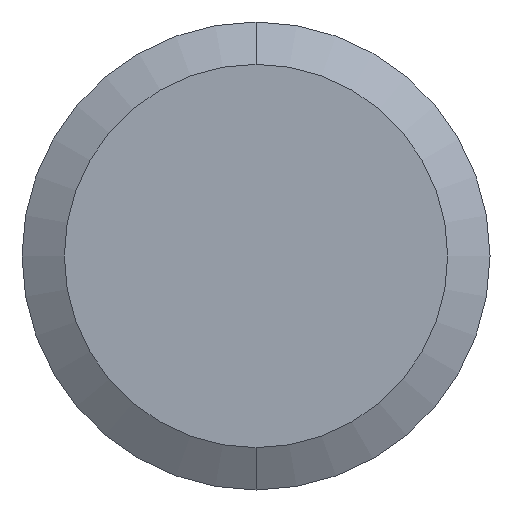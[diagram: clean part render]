
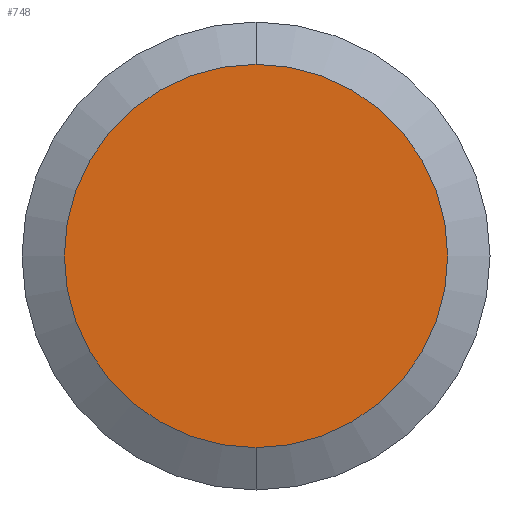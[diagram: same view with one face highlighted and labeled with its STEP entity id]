
A CAD part, front view. The second image highlights one B-rep face of the part: STEP entity #748.
In plain terms, the highlighted planar face has unit normal (0, -1, 0).
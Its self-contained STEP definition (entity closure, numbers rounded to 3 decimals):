
#140 = EDGE_CURVE ( 'NONE', #1318, #434, #572, .T. ) ;
#197 = EDGE_LOOP ( 'NONE', ( #386, #1237 ) ) ;
#217 = DIRECTION ( 'NONE',  ( 0., 1., 0. ) ) ;
#219 = CARTESIAN_POINT ( 'NONE',  ( 0., 0., 0. ) ) ;
#221 = CARTESIAN_POINT ( 'NONE',  ( 0., 0., 0. ) ) ;
#225 = CIRCLE ( 'NONE', #862, 3.687 ) ;
#244 = DIRECTION ( 'NONE',  ( 0., 1., 0. ) ) ;
#245 = EDGE_CURVE ( 'NONE', #434, #1318, #225, .T. ) ;
#254 = CARTESIAN_POINT ( 'NONE',  ( 0., 0., 0. ) ) ;
#299 = FACE_OUTER_BOUND ( 'NONE', #197, .T. ) ;
#326 = DIRECTION ( 'NONE',  ( 0., 0., 1. ) ) ;
#386 = ORIENTED_EDGE ( 'NONE', *, *, #245, .F. ) ;
#434 = VERTEX_POINT ( 'NONE', #1364 ) ;
#461 = AXIS2_PLACEMENT_3D ( 'NONE', #219, #973, #326 ) ;
#571 = DIRECTION ( 'NONE',  ( 0., 0., 1. ) ) ;
#572 = CIRCLE ( 'NONE', #461, 3.687 ) ;
#744 = AXIS2_PLACEMENT_3D ( 'NONE', #221, #217, #976 ) ;
#748 = ADVANCED_FACE ( 'NONE', ( #299 ), #863, .F. ) ;
#862 = AXIS2_PLACEMENT_3D ( 'NONE', #254, #244, #571 ) ;
#863 = PLANE ( 'NONE',  #744 ) ;
#973 = DIRECTION ( 'NONE',  ( 0., 1., 0. ) ) ;
#976 = DIRECTION ( 'NONE',  ( 0., 0., 1. ) ) ;
#1237 = ORIENTED_EDGE ( 'NONE', *, *, #140, .F. ) ;
#1318 = VERTEX_POINT ( 'NONE', #1369 ) ;
#1364 = CARTESIAN_POINT ( 'NONE',  ( 0., 0., 3.687 ) ) ;
#1369 = CARTESIAN_POINT ( 'NONE',  ( 0., 0., -3.687 ) ) ;
